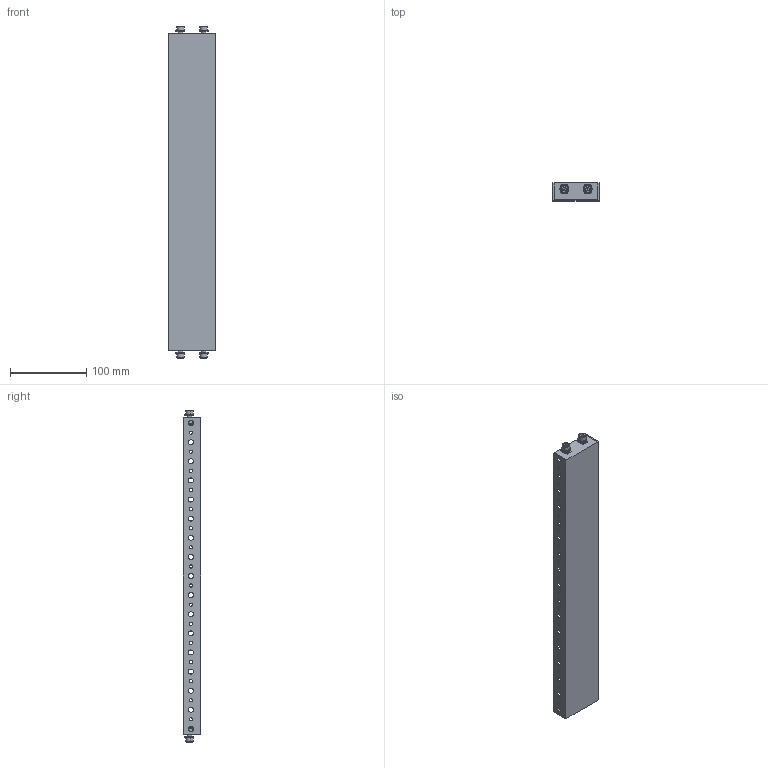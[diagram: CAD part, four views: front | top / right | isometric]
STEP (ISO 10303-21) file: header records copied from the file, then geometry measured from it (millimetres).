
FILE_DESCRIPTION(('Open CASCADE Model'),'2;1');
FILE_NAME('Open CASCADE Shape Model','2025-02-28T14:45:29',('Author'),( 'Open CASCADE'),'Open CASCADE STEP processor 7.8','Open CASCADE 7.8' ,'Unknown');
FILE_SCHEMA(('AUTOMOTIVE_DESIGN { 1 0 10303 214 1 1 1 1 }'));
Length unit declared in the file: millimetre
Products named in the file (5): Compound1; Solid1; Solid2; Solid3; Solid4
Assembly tree (13 placements, depth 2):
  Compound1
    Solid1
    Solid2  x4
    Solid3  x4
    Solid4  x4
Bounding box: 60.5 x 23 x 434.2 mm (x, y, z)
Volume: 71075.1 mm3; surface area: 97929.7 mm2
Topology: 13 solids, 13 shells, 746 faces, 2084 edges, 1356 vertices
Faces by surface type: cylinder 372, plane 326, cone 32, torus 16
Entity records: 10832 total; most frequent: CARTESIAN_POINT 2040, DIRECTION 1870, ORIENTED_EDGE 1776, EDGE_CURVE 888, AXIS2_PLACEMENT_3D 709, VERTEX_POINT 585, FACE_BOUND 459, EDGE_LOOP 459
